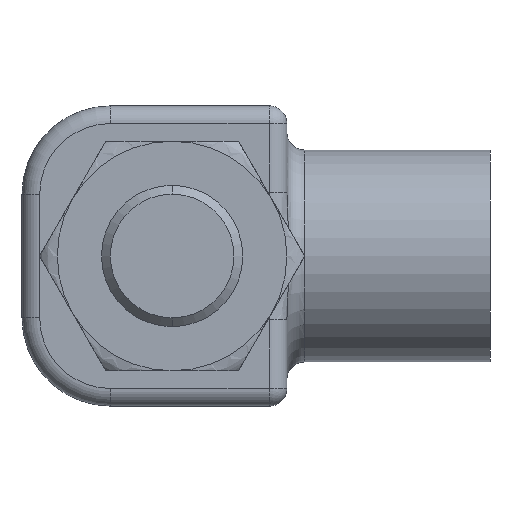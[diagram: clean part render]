
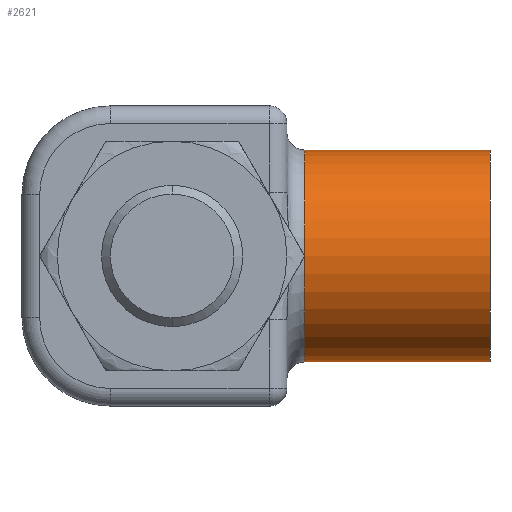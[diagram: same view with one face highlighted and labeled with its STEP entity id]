
A CAD part, front view. The second image highlights one B-rep face of the part: STEP entity #2621.
In plain terms, the highlighted cylindrical face has radius 6 mm (diameter 12 mm), a partial arc.
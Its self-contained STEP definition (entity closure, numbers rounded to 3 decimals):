
#63 = VERTEX_POINT ( 'NONE', #2786 ) ;
#81 = VECTOR ( 'NONE', #2887, 1000. ) ;
#250 = VECTOR ( 'NONE', #3173, 1000. ) ;
#542 = EDGE_CURVE ( 'NONE', #1613, #1984, #2552, .T. ) ;
#763 = VERTEX_POINT ( 'NONE', #2271 ) ;
#775 = FACE_OUTER_BOUND ( 'NONE', #2478, .T. ) ;
#799 = CARTESIAN_POINT ( 'NONE',  ( 18., 0., 0. ) ) ;
#1042 = CARTESIAN_POINT ( 'NONE',  ( -8.5, 0., 0. ) ) ;
#1267 = DIRECTION ( 'NONE',  ( 0., 0., 1. ) ) ;
#1295 = CARTESIAN_POINT ( 'NONE',  ( 7.5, 0., 0. ) ) ;
#1302 = AXIS2_PLACEMENT_3D ( 'NONE', #1295, #1792, #1267 ) ;
#1323 = CIRCLE ( 'NONE', #2050, 6. ) ;
#1347 = DIRECTION ( 'NONE',  ( 0., 0., 1. ) ) ;
#1366 = CARTESIAN_POINT ( 'NONE',  ( 18., 0., 6. ) ) ;
#1573 = DIRECTION ( 'NONE',  ( -1., 0., 0. ) ) ;
#1613 = VERTEX_POINT ( 'NONE', #1366 ) ;
#1643 = ORIENTED_EDGE ( 'NONE', *, *, #2760, .F. ) ;
#1741 = CARTESIAN_POINT ( 'NONE',  ( 7.5, 0., 6. ) ) ;
#1792 = DIRECTION ( 'NONE',  ( -1., 0., 0. ) ) ;
#1829 = AXIS2_PLACEMENT_3D ( 'NONE', #1042, #2070, #1347 ) ;
#1927 = ORIENTED_EDGE ( 'NONE', *, *, #542, .T. ) ;
#1984 = VERTEX_POINT ( 'NONE', #1741 ) ;
#2050 = AXIS2_PLACEMENT_3D ( 'NONE', #799, #1573, #2598 ) ;
#2070 = DIRECTION ( 'NONE',  ( -1., 0., 0. ) ) ;
#2115 = CARTESIAN_POINT ( 'NONE',  ( -8.5, 0., 6. ) ) ;
#2263 = ORIENTED_EDGE ( 'NONE', *, *, #2514, .F. ) ;
#2271 = CARTESIAN_POINT ( 'NONE',  ( 7.5, 0., -6. ) ) ;
#2368 = ORIENTED_EDGE ( 'NONE', *, *, #2625, .T. ) ;
#2478 = EDGE_LOOP ( 'NONE', ( #1643, #2368, #1927, #2263 ) ) ;
#2514 = EDGE_CURVE ( 'NONE', #763, #1984, #3092, .T. ) ;
#2552 = LINE ( 'NONE', #2115, #81 ) ;
#2598 = DIRECTION ( 'NONE',  ( 0., 0., 1. ) ) ;
#2621 = ADVANCED_FACE ( 'NONE', ( #775 ), #2770, .T. ) ;
#2625 = EDGE_CURVE ( 'NONE', #63, #1613, #1323, .T. ) ;
#2736 = LINE ( 'NONE', #3196, #250 ) ;
#2760 = EDGE_CURVE ( 'NONE', #63, #763, #2736, .T. ) ;
#2770 = CYLINDRICAL_SURFACE ( 'NONE', #1829, 6. ) ;
#2786 = CARTESIAN_POINT ( 'NONE',  ( 18., 0., -6. ) ) ;
#2887 = DIRECTION ( 'NONE',  ( -1., 0., 0. ) ) ;
#3092 = CIRCLE ( 'NONE', #1302, 6. ) ;
#3173 = DIRECTION ( 'NONE',  ( -1., 0., 0. ) ) ;
#3196 = CARTESIAN_POINT ( 'NONE',  ( -8.5, 0., -6. ) ) ;
